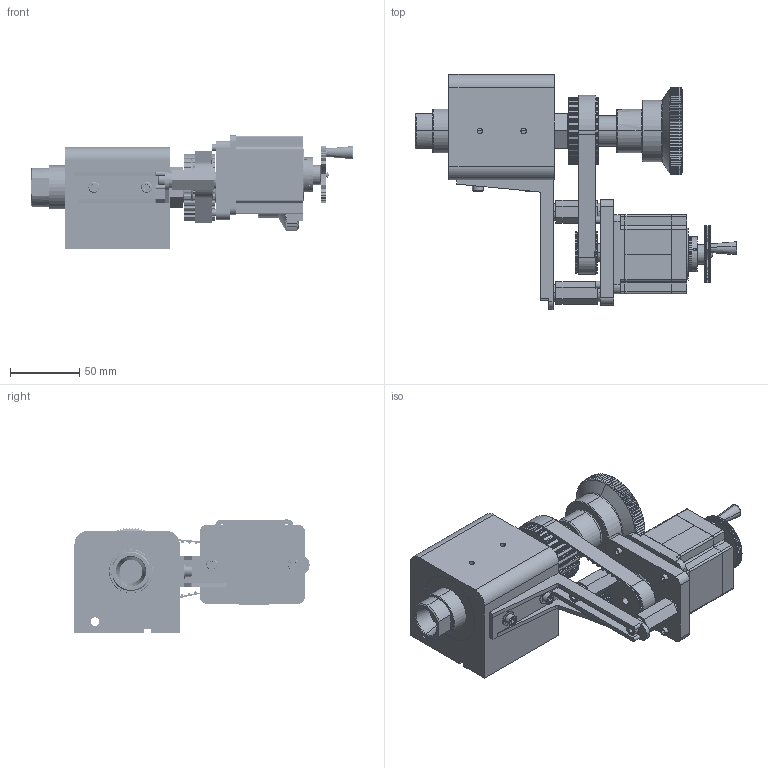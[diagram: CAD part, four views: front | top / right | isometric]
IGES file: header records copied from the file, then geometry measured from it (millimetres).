
Start section: Comment
Global section: file name: 3 collect head stock w cog W motor assem.igs; native system:  By Spatial Corp.; preprocessor: XPlus PS/IGES 3.0; author: Author; organization: Title; date: 20180702.140127; units: inch
Bounding box: 232.74 x 170.18 x 82.11 mm (x, y, z)
Surface area: 190113.7 mm2 (no closed solid volume)
Topology: 0 solids, 0 shells, 4309 faces, 21892 edges, 21886 vertices
Faces by surface type: revolution 2198, extrusion 2101, bspline 10
